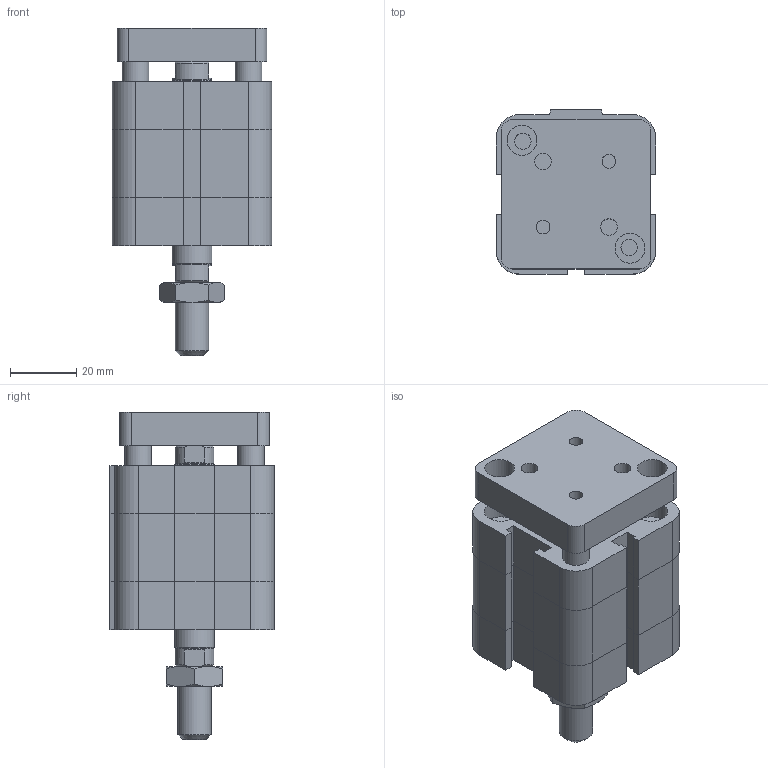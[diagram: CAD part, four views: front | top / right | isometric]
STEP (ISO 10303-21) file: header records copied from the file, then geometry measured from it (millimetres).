
FILE_DESCRIPTION((''),'2;1');
FILE_NAME('I:\Area Tecnica\Disegni\VARIE-3D\Componenti\EUROPE\15##_###_####_09_#\1581_32_0005_09_1.iam.stp','2009-04-20T15:44:00',(''),(''),'Autodesk Inventor 2009','Autodesk Inventor 2009','');
FILE_SCHEMA(('AUTOMOTIVE_DESIGN { 1 0 10303 214 1 1 1 1 }'));
Length unit declared in the file: millimetre
Products named in the file (4): 1581_32_0005_09_1; 1581_32_0005_08_1_C; 1561_32_0005_09_1_SA; DBFM10
Assembly tree (3 placements, depth 2):
  1581_32_0005_09_1
    1581_32_0005_08_1_C
    1561_32_0005_09_1_SA
    DBFM10
Bounding box: 48 x 49.5 x 98.5 mm (x, y, z)
Volume: 122759.1 mm3; surface area: 32729.1 mm2
Topology: 3 solids, 3 shells, 209 faces, 470 edges, 287 vertices
Faces by surface type: plane 120, bspline 45, cylinder 23, cone 21
Full cylindrical faces by diameter (mm): 8 x2, 8.8 x1, 10 x1, 11.7 x2, 12 x1
Entity records: 5963 total; most frequent: CARTESIAN_POINT 1453, DIRECTION 838, ORIENTED_EDGE 834, EDGE_CURVE 417, AXIS2_PLACEMENT_3D 282, EDGE_LOOP 282, VECTOR 274, LINE 274
